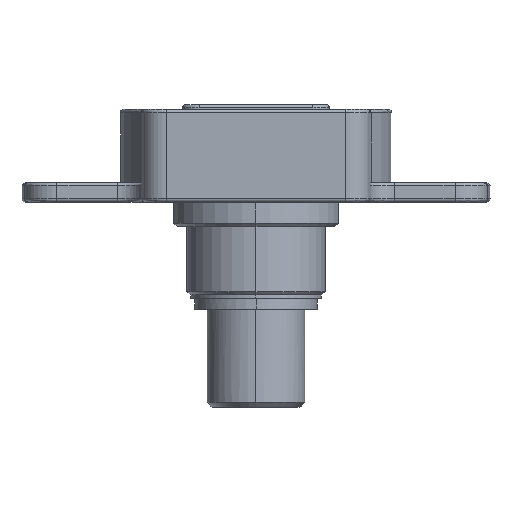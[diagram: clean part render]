
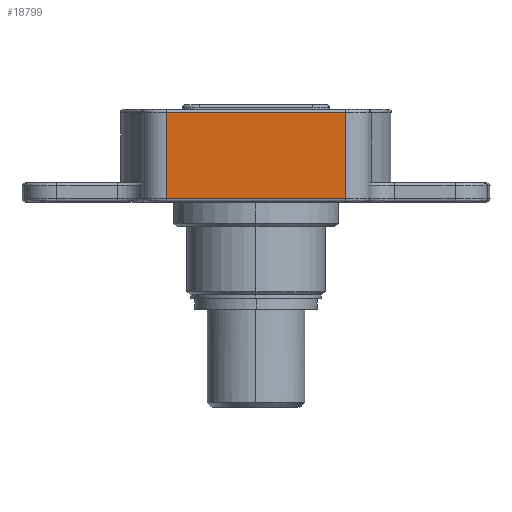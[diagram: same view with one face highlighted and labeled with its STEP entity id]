
A CAD part, top view. The second image highlights one B-rep face of the part: STEP entity #18799.
In plain terms, the highlighted planar face has unit normal (0, 0, 1).
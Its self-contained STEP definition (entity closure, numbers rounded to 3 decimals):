
#225 = EDGE_CURVE ( 'NONE', #6967, #2711, #10008, .T. ) ;
#482 = CARTESIAN_POINT ( 'NONE',  ( -5.5, 5.5, 7. ) ) ;
#781 = CARTESIAN_POINT ( 'NONE',  ( -5.5, 1.2, 7. ) ) ;
#790 = EDGE_CURVE ( 'NONE', #2711, #17582, #10558, .T. ) ;
#1741 = CARTESIAN_POINT ( 'NONE',  ( -5.5, 0.2, 7. ) ) ;
#2268 = CARTESIAN_POINT ( 'NONE',  ( -7., 5.5, 7. ) ) ;
#2711 = VERTEX_POINT ( 'NONE', #482 ) ;
#3249 = DIRECTION ( 'NONE',  ( -1., 0., 0. ) ) ;
#3995 = ORIENTED_EDGE ( 'NONE', *, *, #790, .F. ) ;
#4127 = DIRECTION ( 'NONE',  ( 1., 0., 0. ) ) ;
#4878 = CARTESIAN_POINT ( 'NONE',  ( 5.5, 5.5, 7. ) ) ;
#6668 = PLANE ( 'NONE',  #20388 ) ;
#6747 = EDGE_CURVE ( 'NONE', #17582, #18894, #14504, .T. ) ;
#6967 = VERTEX_POINT ( 'NONE', #1741 ) ;
#8113 = FACE_OUTER_BOUND ( 'NONE', #20275, .T. ) ;
#8563 = ORIENTED_EDGE ( 'NONE', *, *, #6747, .F. ) ;
#9051 = VECTOR ( 'NONE', #4127, 1000. ) ;
#9257 = ORIENTED_EDGE ( 'NONE', *, *, #16929, .F. ) ;
#10008 = LINE ( 'NONE', #781, #18683 ) ;
#10558 = LINE ( 'NONE', #2268, #9051 ) ;
#11096 = CARTESIAN_POINT ( 'NONE',  ( 5.5, 1.2, 7. ) ) ;
#12870 = DIRECTION ( 'NONE',  ( 0., 0., -1. ) ) ;
#13854 = DIRECTION ( 'NONE',  ( -1., 0., 0. ) ) ;
#14504 = LINE ( 'NONE', #11096, #18115 ) ;
#15849 = DIRECTION ( 'NONE',  ( 0., -1., 0. ) ) ;
#15865 = CARTESIAN_POINT ( 'NONE',  ( -7., 1.2, 7. ) ) ;
#16303 = DIRECTION ( 'NONE',  ( 0., 1., 0. ) ) ;
#16929 = EDGE_CURVE ( 'NONE', #18894, #6967, #20459, .T. ) ;
#17056 = VECTOR ( 'NONE', #13854, 1000. ) ;
#17582 = VERTEX_POINT ( 'NONE', #4878 ) ;
#18115 = VECTOR ( 'NONE', #15849, 1000. ) ;
#18683 = VECTOR ( 'NONE', #16303, 1000. ) ;
#18799 = ADVANCED_FACE ( 'NONE', ( #8113 ), #6668, .F. ) ;
#18894 = VERTEX_POINT ( 'NONE', #19471 ) ;
#19471 = CARTESIAN_POINT ( 'NONE',  ( 5.5, 0.2, 7. ) ) ;
#19522 = ORIENTED_EDGE ( 'NONE', *, *, #225, .F. ) ;
#20052 = CARTESIAN_POINT ( 'NONE',  ( -7., 0.2, 7. ) ) ;
#20275 = EDGE_LOOP ( 'NONE', ( #9257, #8563, #3995, #19522 ) ) ;
#20388 = AXIS2_PLACEMENT_3D ( 'NONE', #15865, #12870, #3249 ) ;
#20459 = LINE ( 'NONE', #20052, #17056 ) ;
